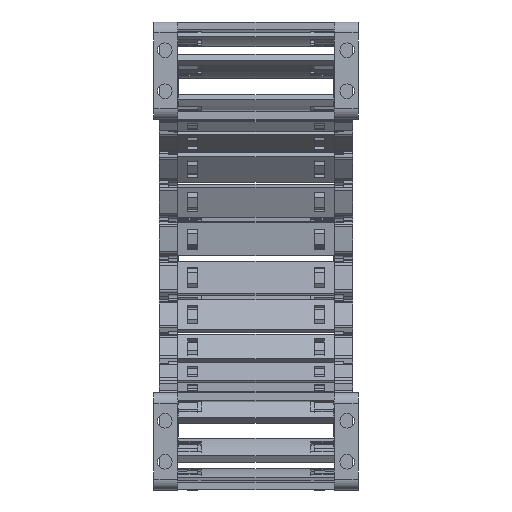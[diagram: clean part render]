
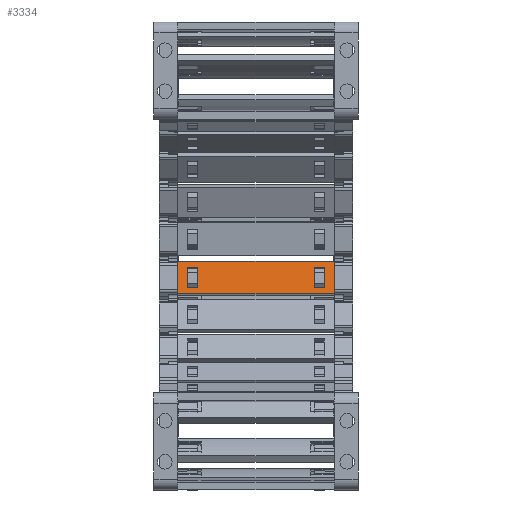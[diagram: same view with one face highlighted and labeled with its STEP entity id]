
A CAD part, left-side view. The second image highlights one B-rep face of the part: STEP entity #3334.
In plain terms, the highlighted planar face has unit normal (-0.988, 0, 0.156) as drawn and (0, 0, -1) by its records, which use the part's own axes.
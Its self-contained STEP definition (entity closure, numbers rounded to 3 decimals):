
#2814=DIRECTION('',(-1.,0.,0.));
#2815=VECTOR('',#2814,18.);
#2816=CARTESIAN_POINT('',(9.,-60.75,0.));
#2817=LINE('',#2816,#2815);
#2852=DIRECTION('',(0.,1.,0.));
#2853=VECTOR('',#2852,5.56);
#2854=CARTESIAN_POINT('',(-5.55,14.2,0.));
#2855=LINE('',#2854,#2853);
#2856=DIRECTION('',(1.,0.,0.));
#2857=VECTOR('',#2856,11.1);
#2858=CARTESIAN_POINT('',(-5.55,19.76,0.));
#2859=LINE('',#2858,#2857);
#2860=DIRECTION('',(0.,-1.,0.));
#2861=VECTOR('',#2860,5.56);
#2862=CARTESIAN_POINT('',(5.55,19.76,0.));
#2863=LINE('',#2862,#2861);
#2864=DIRECTION('',(-1.,0.,0.));
#2865=VECTOR('',#2864,11.1);
#2866=CARTESIAN_POINT('',(5.55,14.2,0.));
#2867=LINE('',#2866,#2865);
#2872=DIRECTION('',(1.,0.,0.));
#2873=VECTOR('',#2872,18.);
#2874=CARTESIAN_POINT('',(-9.,25.25,0.));
#2875=LINE('',#2874,#2873);
#2906=DIRECTION('',(0.,1.,0.));
#2907=VECTOR('',#2906,86.);
#2908=CARTESIAN_POINT('',(-9.,-60.75,0.));
#2909=LINE('',#2908,#2907);
#3035=DIRECTION('',(0.,-1.,0.));
#3036=VECTOR('',#3035,86.);
#3037=CARTESIAN_POINT('',(9.,25.25,0.));
#3038=LINE('',#3037,#3036);
#3100=DIRECTION('',(0.,-1.,0.));
#3101=VECTOR('',#3100,5.56);
#3102=CARTESIAN_POINT('',(-5.55,-49.7,0.));
#3103=LINE('',#3102,#3101);
#3112=DIRECTION('',(0.,1.,0.));
#3113=VECTOR('',#3112,5.56);
#3114=CARTESIAN_POINT('',(5.55,-55.26,0.));
#3115=LINE('',#3114,#3113);
#3124=DIRECTION('',(1.,0.,0.));
#3125=VECTOR('',#3124,11.1);
#3126=CARTESIAN_POINT('',(-5.55,-55.26,0.));
#3127=LINE('',#3126,#3125);
#3136=DIRECTION('',(-1.,0.,0.));
#3137=VECTOR('',#3136,11.1);
#3138=CARTESIAN_POINT('',(5.55,-49.7,0.));
#3139=LINE('',#3138,#3137);
#3188=CARTESIAN_POINT('',(9.,-60.75,0.));
#3189=CARTESIAN_POINT('',(-9.,-60.75,0.));
#3190=VERTEX_POINT('',#3188);
#3191=VERTEX_POINT('',#3189);
#3212=CARTESIAN_POINT('',(-5.55,-49.7,0.));
#3213=CARTESIAN_POINT('',(-5.55,-55.26,0.));
#3214=VERTEX_POINT('',#3212);
#3215=VERTEX_POINT('',#3213);
#3216=CARTESIAN_POINT('',(5.55,-49.7,0.));
#3217=VERTEX_POINT('',#3216);
#3218=CARTESIAN_POINT('',(5.55,-55.26,0.));
#3219=VERTEX_POINT('',#3218);
#3244=CARTESIAN_POINT('',(-9.,25.25,0.));
#3245=CARTESIAN_POINT('',(9.,25.25,0.));
#3246=VERTEX_POINT('',#3244);
#3247=VERTEX_POINT('',#3245);
#3248=CARTESIAN_POINT('',(-5.55,14.2,0.));
#3249=CARTESIAN_POINT('',(-5.55,19.76,0.));
#3250=VERTEX_POINT('',#3248);
#3251=VERTEX_POINT('',#3249);
#3252=CARTESIAN_POINT('',(5.55,19.76,0.));
#3253=VERTEX_POINT('',#3252);
#3254=CARTESIAN_POINT('',(5.55,14.2,0.));
#3255=VERTEX_POINT('',#3254);
#3300=CARTESIAN_POINT('',(8.,-60.75,0.));
#3301=DIRECTION('',(0.,0.,-1.));
#3302=DIRECTION('',(-1.,0.,0.));
#3303=AXIS2_PLACEMENT_3D('',#3300,#3301,#3302);
#3304=PLANE('',#3303);
#3306=ORIENTED_EDGE('',*,*,#3305,.F.);
#3308=ORIENTED_EDGE('',*,*,#3307,.F.);
#3309=ORIENTED_EDGE('',*,*,#3273,.F.);
#3311=ORIENTED_EDGE('',*,*,#3310,.F.);
#3312=EDGE_LOOP('',(#3306,#3308,#3309,#3311));
#3313=FACE_OUTER_BOUND('',#3312,.F.);
#3315=ORIENTED_EDGE('',*,*,#3314,.T.);
#3317=ORIENTED_EDGE('',*,*,#3316,.T.);
#3319=ORIENTED_EDGE('',*,*,#3318,.T.);
#3321=ORIENTED_EDGE('',*,*,#3320,.T.);
#3322=EDGE_LOOP('',(#3315,#3317,#3319,#3321));
#3323=FACE_BOUND('',#3322,.F.);
#3325=ORIENTED_EDGE('',*,*,#3324,.F.);
#3327=ORIENTED_EDGE('',*,*,#3326,.F.);
#3329=ORIENTED_EDGE('',*,*,#3328,.F.);
#3331=ORIENTED_EDGE('',*,*,#3330,.F.);
#3332=EDGE_LOOP('',(#3325,#3327,#3329,#3331));
#3333=FACE_BOUND('',#3332,.F.);
#3334=ADVANCED_FACE('',(#3313,#3323,#3333),#3304,.T.);
#3273=EDGE_CURVE('',#3190,#3191,#2817,.T.);
#3305=EDGE_CURVE('',#3246,#3247,#2875,.T.);
#3307=EDGE_CURVE('',#3191,#3246,#2909,.T.);
#3310=EDGE_CURVE('',#3247,#3190,#3038,.T.);
#3314=EDGE_CURVE('',#3250,#3251,#2855,.T.);
#3316=EDGE_CURVE('',#3251,#3253,#2859,.T.);
#3318=EDGE_CURVE('',#3253,#3255,#2863,.T.);
#3320=EDGE_CURVE('',#3255,#3250,#2867,.T.);
#3324=EDGE_CURVE('',#3214,#3215,#3103,.T.);
#3326=EDGE_CURVE('',#3217,#3214,#3139,.T.);
#3328=EDGE_CURVE('',#3219,#3217,#3115,.T.);
#3330=EDGE_CURVE('',#3215,#3219,#3127,.T.);
